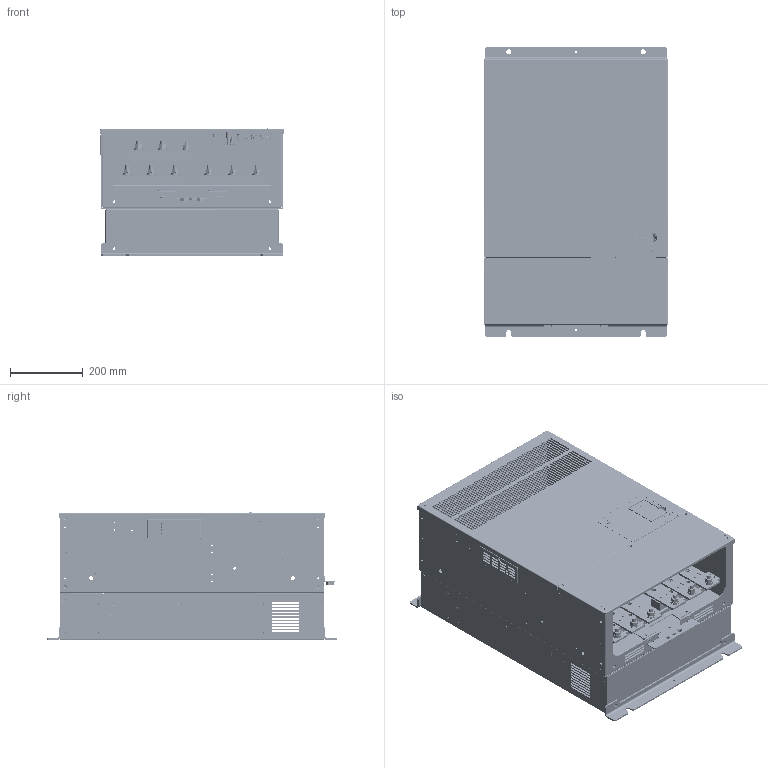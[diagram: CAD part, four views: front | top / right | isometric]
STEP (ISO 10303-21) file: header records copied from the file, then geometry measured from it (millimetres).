
FILE_DESCRIPTION((''),'2;1');
FILE_NAME('71616-AC4A0362AAA_ASM','2010-03-31T',('jc'),('YASKAWA ELECTRIC CORCORATION'),'PRO/ENGINEER BY PARAMETRIC TECHNOLOGY CORPORATION, 2008490','PRO/ENGINEER BY PARAMETRIC TECHNOLOGY CORPORATION, 2008490','');
FILE_SCHEMA(('CONFIG_CONTROL_DESIGN'));
Length unit declared in the file: millimetre
Products named in the file (197): LAY-AA4A0362AAA; ECAT31677-A-1; ECAT31677-A-2A-1_1; ECAT31677-A-2A-1_2; ECAT31677-A-2A-1_3; ECAT31677-A-2A-1_ASM; ECAT31677-A-2A_ASM; ECAT31677-A-3; ECAT31677-A-3_2; ECAT31677-A-3_3; ECAT31677-A-3_ASM; ECAT31677-A-9_AF0; ECAT31677-A-9_AF1; ECAT31677-A-9_AF2; ECAT31677-A-9_AF3; ECAT31677-A-9_AF4; ECAT31677-A-9_AF5; ECAT31677-A-9_AF6; ECAT31677-A-9_AF7; ECAT31677-A-9_AF8; ECAT31677-A-9_AF9; ECAT31677-A-9_AF10; ECAT31677-A-9_AF11; ECAT31677-A-9_AF12; ECAT31677-A-9_AF13; ECAT31677-A-9_AF14; ECAT31677-A-9_AF15; ECAT31677-A-9_AF16; ECAT31677-A-9_AF17; ECAT31677-A-9_AF18; ECAT31677-A-9_AF19; ECAT31677-A-9_AF20; ECAT31677-A-9_AF21; ECAT31677-A-9_AF22; ECAT31677-A-9_AF23; ECAT31677-A-9_AF24; ECAT31677-A-9_AF25; ECAT31677-A-9_AF26; ECAT31677-A-9_AF27; ECAT31677-A-9_AF28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
Assembly tree (237 placements, depth 6):
  71616-AC4A0362AAA_ASM
    LAY-AA4A0362AAA
    ECAT31677_ASM
      ECAT31677-A-1
      ECAT31677-A-2A_ASM
        ECAT31677-A-2A-1_ASM
          ECAT31677-A-2A-1_1
          ECAT31677-A-2A-1_2  x2
          ECAT31677-A-2A-1_3  x2
      ECAT31677-A-3_ASM
        ECAT31677-A-3
        ECAT31677-A-3_2  x2
        ECAT31677-A-3_3  x2
      ECAT31677-A-9_AF0
      ECAT31677-A-9_AF1
      ECAT31677-A-9_AF2
      ECAT31677-A-9_AF3
      ECAT31677-A-9_AF4
      ECAT31677-A-9_AF5
      ECAT31677-A-9_AF6
      ECAT31677-A-9_AF7
      ECAT31677-A-9_AF8
      ECAT31677-A-9_AF9
      ECAT31677-A-9_AF10
      ECAT31677-A-9_AF11
      ECAT31677-A-9_AF12
      ECAT31677-A-9_AF13
      ECAT31677-A-9_AF14
      ECAT31677-A-9_AF15
      ECAT31677-A-9_AF16
      ECAT31677-A-9_AF17
      ECAT31677-A-9_AF18
      ECAT31677-A-9_AF19
      ECAT31677-A-9_AF20
      ECAT31677-A-9_AF21
      ECAT31677-A-9_AF22
      ECAT31677-A-9_AF23
      ECAT31677-A-9_AF24
      ECAT31677-A-9_AF25
      ECAT31677-A-9_AF26
      ECAT31677-A-9_AF27
      ECAT31677-A-9_AF28
      ECAT31677-A-9_AF29
      ECAT31677-A-9_AF30
      ECAT31677-A-9_AF31
      ECAT31677-A-9_AF32
      ECAT31677-A-9_AF33
      ECAT31677-A-9_AF34
      ECAT31677-A-9_AF35
      ECAT31677-A-9_AF36
      ECAT31677-A-9_AF37
      ECAT31677-A-9_AF38
      ECAT31677-A-9_AF39
      ECAT31677-A-9_AF40
      ECAT31677-A-9_AF41
      ECAT31677-A-9_AF42
      ECAT31677-A-9_AF43
    ECAT31676_ASM
      ECAT31676-A-1
      ECAT31676-A-2_ASM
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Bounding box: 507.2 x 800 x 352.84 mm (x, y, z)
Volume: 5339719.9 mm3; surface area: 4801054.7 mm2
Topology: 744 solids, 744 shells, 19357 faces, 48562 edges, 31425 vertices
Faces by surface type: plane 14593, cylinder 2906, cone 1251, bspline 301, torus 155, sphere 151
Entity records: 543637 total; most frequent: CARTESIAN_POINT 111731, ORIENTED_EDGE 88730, DIRECTION 85602, EDGE_CURVE 44365, VECTOR 36906, LINE 36906, VERTEX_POINT 28826, AXIS2_PLACEMENT_3D 24348
